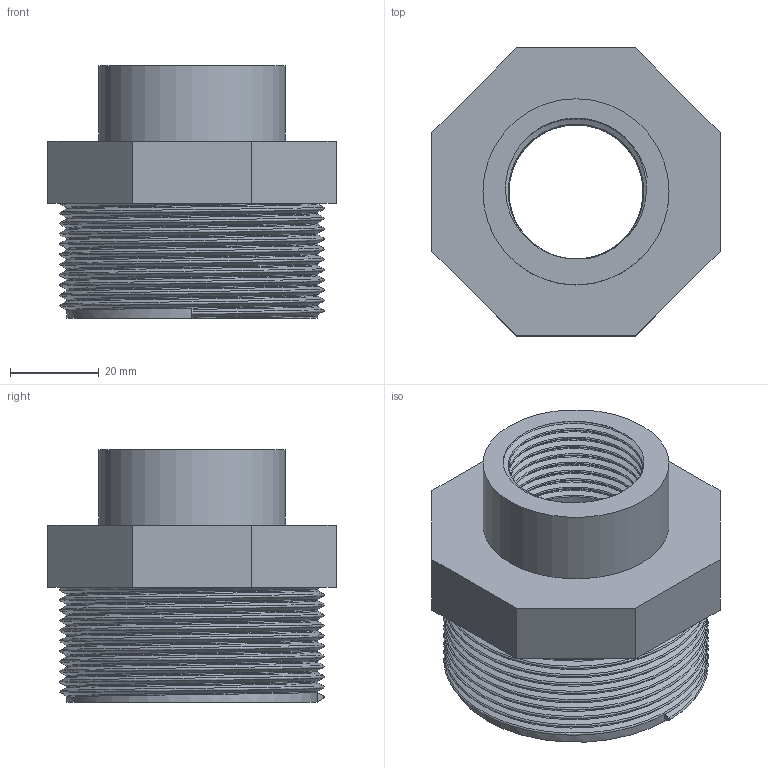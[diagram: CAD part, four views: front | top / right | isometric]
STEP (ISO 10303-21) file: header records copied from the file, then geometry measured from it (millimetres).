
FILE_DESCRIPTION(/* description */ (''),/* implementation_level */ '2;1');
FILE_NAME(/* name */ 'C:\Users\POLYPIPE\Desktop\DATASET INVENTOR\LIBRERIA EFFAST\RACCORDI 3DxWEB\RER\3D_RERRIE\3D_RERRIE063D.stp',/* time_stamp */ '2018-01-19T17:05:48+01:00',/* author */ ('POLYPIPE'),/* organization */ ('Polypipe Italia'),/* preprocessor_version */ 'ST-DEVELOPER v16.1',/* originating_system */ 'Autodesk Inventor 2016',/* authorisation */ '');
FILE_SCHEMA (('CONFIG_CONTROL_DESIGN'));
Length unit declared in the file: millimetre
Products named in the file (1): 3D_RERRIE063D
Bounding box: 65 x 65 x 57 mm (x, y, z)
Volume: 72998 mm3; surface area: 26829.2 mm2
Topology: 1 solids, 1 shells, 29 faces, 68 edges, 44 vertices
Faces by surface type: plane 15, bspline 10, cylinder 4
Full cylindrical faces by diameter (mm): 30.291 x1, 42 x1, 45.5 x1, 56.656 x1
Entity records: 8333 total; most frequent: CARTESIAN_POINT 7718, ORIENTED_EDGE 128, DIRECTION 94, EDGE_CURVE 64, VERTEX_POINT 43, EDGE_LOOP 37, AXIS2_PLACEMENT_3D 32, LINE 30
